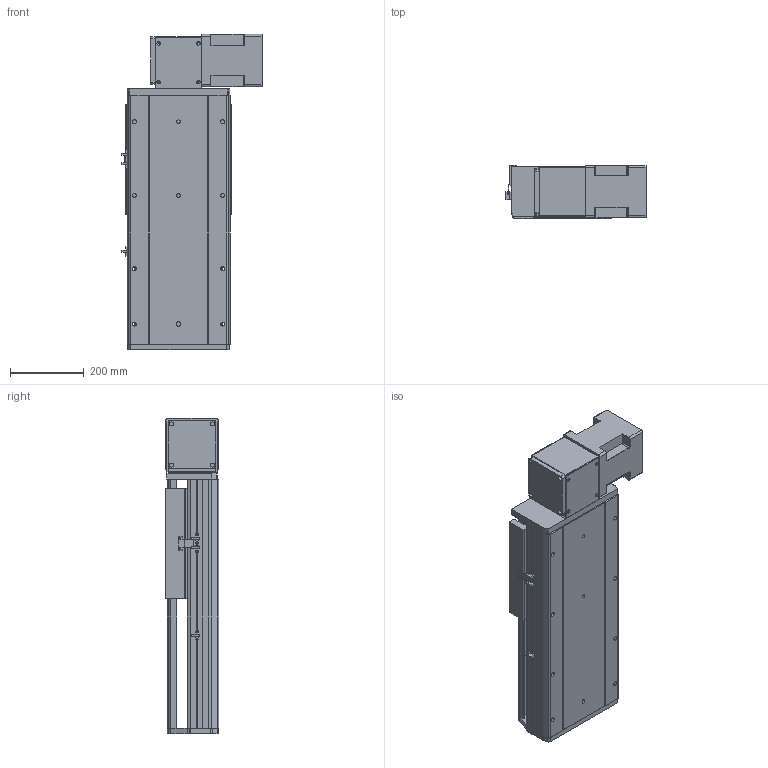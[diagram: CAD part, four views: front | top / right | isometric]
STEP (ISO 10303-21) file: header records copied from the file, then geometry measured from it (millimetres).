
FILE_DESCRIPTION (( 'STEP AP214' ), '1' );
FILE_NAME ('RTB28S-XX-250-BL-M100-XX-C4.STEP', '2025-12-22T02:15:42', ( '' ), ( '' ), 'SwSTEP 2.0', 'SolidWorks 2018', '' );
FILE_SCHEMA (( 'AUTOMOTIVE_DESIGN' ));
Length unit declared in the file: millimetre
Products named in the file (4): RTB28S-XX-250-BL-M100-XX-C4; RTB28S-GY-004^RTB28S-XX-XX-BL-M100-XX-C4; RTB28S-GY-008^RTB28S-XX-XX-BL-M100-XX-C4; RTB28S-GY-011^RTB28S-XX-XX-BL-M100-XX-C4
Assembly tree (3 placements, depth 2):
  RTB28S-XX-250-BL-M100-XX-C4
    RTB28S-GY-011^RTB28S-XX-XX-BL-M100-XX-C4
    RTB28S-GY-004^RTB28S-XX-XX-BL-M100-XX-C4
    RTB28S-GY-008^RTB28S-XX-XX-BL-M100-XX-C4
Bounding box: 380.7 x 145 x 857 mm (x, y, z)
Volume: 17804405 mm3; surface area: 1795275.5 mm2
Topology: 3 solids, 4 shells, 748 faces, 1968 edges, 1248 vertices
Faces by surface type: plane 337, cylinder 327, cone 80, torus 4
Entity records: 27569 total; most frequent: CARTESIAN_POINT 4402, DIRECTION 4158, ORIENTED_EDGE 3872, EDGE_CURVE 1936, AXIS2_PLACEMENT_3D 1484, VERTEX_POINT 1248, VECTOR 1190, LINE 1190
